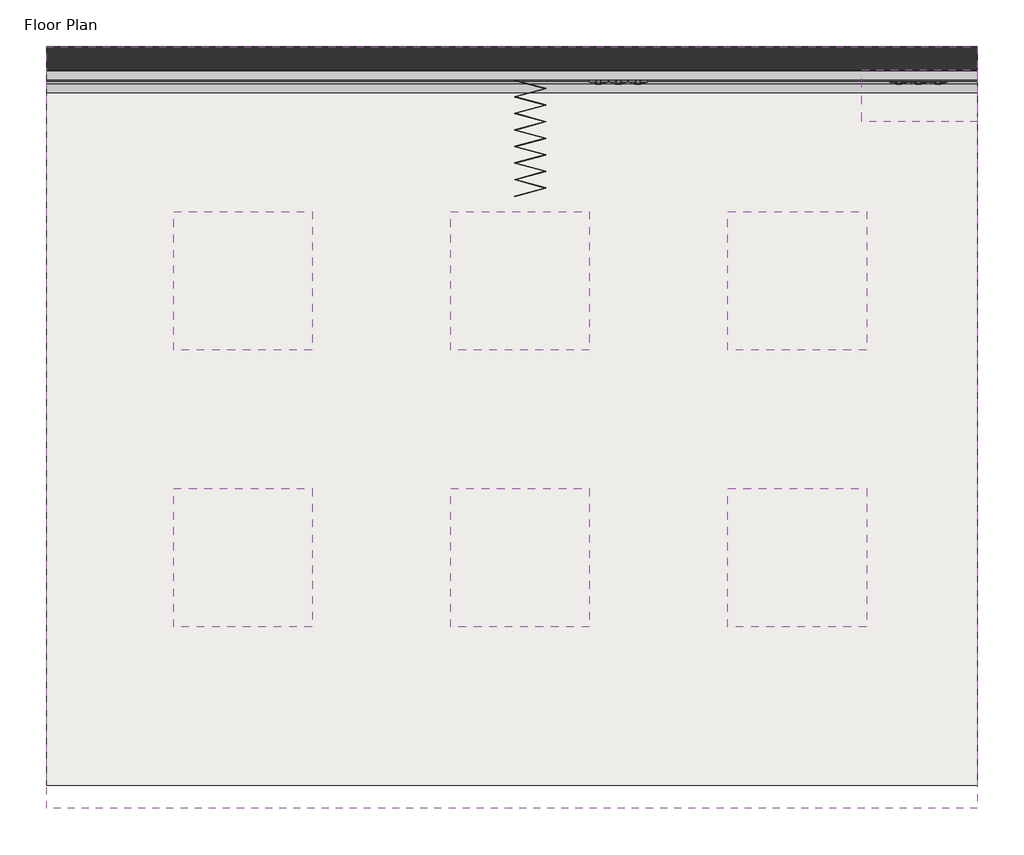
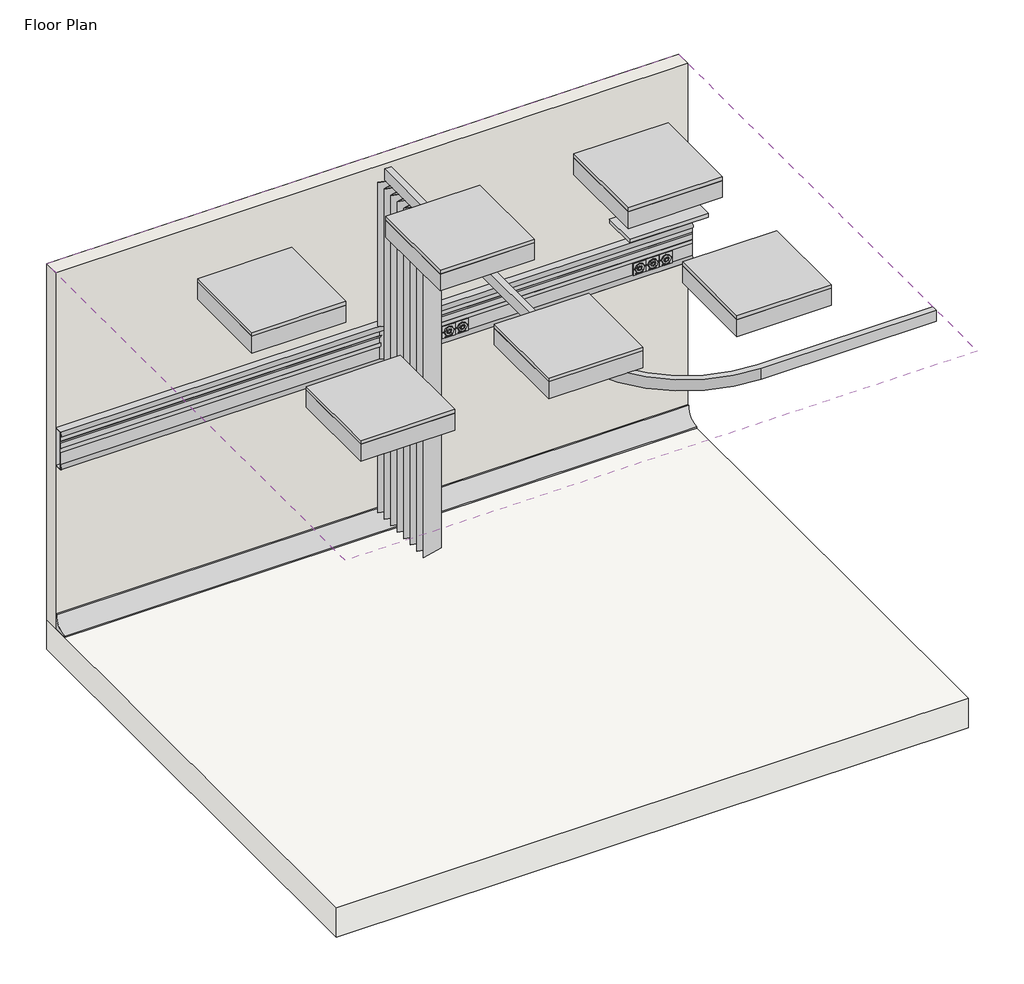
# One storey, incomplete: 9 proxies, 6 light fixtures, 1 covering, 1 furniture element, 1 slab, 1 wall.
"""IFC4 building model written with IfcOpenShell, lengths in millimetres."""

import ifcopenshell
import ifcopenshell.guid

model = None  # the IFC model being written
_history = None  # IfcOwnerHistory: only IFC2X3 demands one
_inside = {}  # id of a spatial element -> (the spatial element, [elements in it])
_under = {}  # id of a project, library or spatial element -> (it, [spatial elements below it])
_declared = {}  # id of a project -> (the project, [libraries it declares])
_typed = {}  # id of a type object -> (the type object, [elements of that type])
_made_of = {}  # id of a material, layer set ... -> (it, [elements and type objects made of it])


def new_model(schema):
    """Start an empty IFC model of exactly this schema.

    Asked for "IFC4X3", IfcOpenShell would pick the latest addendum, in which some entities
    have other attributes; the version numbers below select the first issue.
    IFC2X3 requires an IfcOwnerHistory on every rooted entity: one is made here for all.
    """
    global model, _history
    if schema == "IFC4X3":
        model = ifcopenshell.file(schema_version=(4, 3, 0, 0))
    else:
        model = ifcopenshell.file(schema=schema)
    _inside.clear()
    _under.clear()
    _declared.clear()
    _typed.clear()
    _made_of.clear()
    _history = None
    if model.schema == "IFC2X3":
        org = make("IfcOrganization", Name="unknown")
        user = make(
            "IfcPersonAndOrganization",
            ThePerson=make("IfcPerson", FamilyName="unknown"),
            TheOrganization=org,
        )
        app = make(
            "IfcApplication",
            ApplicationDeveloper=org,
            Version="unknown",
            ApplicationFullName="unknown",
            ApplicationIdentifier="unknown",
        )
        _history = make(
            "IfcOwnerHistory",
            OwningUser=user,
            OwningApplication=app,
            ChangeAction="ADDED",
            CreationDate=0,
        )
    return model


def make(cls, **values):
    """One entity of the class cls with the attributes given. An attribute that is None is left unset."""
    return model.create_entity(
        cls, **{name: value for name, value in values.items() if value is not None}
    )


def rooted(cls, **values):
    """An entity with a GlobalId (a new one), such as an element, a storey or a relation."""
    return make(cls, GlobalId=ifcopenshell.guid.new(), OwnerHistory=_history, **values)


def si_unit(unit_type, name, prefix=None):
    """IfcSIUnit, for example si_unit("LENGTHUNIT", "METRE", prefix="MILLI")."""
    return make("IfcSIUnit", UnitType=unit_type, Prefix=prefix, Name=name)


def assignment(units):
    """IfcUnitAssignment: the units of a project."""
    return None if units is None else make("IfcUnitAssignment", Units=units)


def point(xyz):
    """IfcCartesianPoint."""
    return None if xyz is None else make("IfcCartesianPoint", Coordinates=xyz)


def direction(xyz):
    """IfcDirection."""
    return None if xyz is None else make("IfcDirection", DirectionRatios=xyz)


def frame(location, z_axis=None, x_axis=None):
    """IfcAxis2Placement3D, a coordinate frame: its origin and axes. An axis left out is left unset."""
    return make(
        "IfcAxis2Placement3D",
        Location=point(location),
        Axis=direction(z_axis),
        RefDirection=direction(x_axis),
    )


def frame_2d(location, x_axis=None):
    """IfcAxis2Placement2D, a coordinate frame in the plane: its origin and x axis."""
    return make(
        "IfcAxis2Placement2D", Location=point(location), RefDirection=direction(x_axis)
    )


def origin():
    """The frame at (0, 0, 0) with its axes left unset."""
    return frame((0.0, 0.0, 0.0))


def place(relative_to, where):
    """IfcLocalPlacement: puts the frame where relative to a parent placement (None: the world)."""
    return make(
        "IfcLocalPlacement", PlacementRelTo=relative_to, RelativePlacement=where
    )


def context(
    kind, dimensions, precision=None, world=None, true_north=None, identifier=None
):
    """IfcGeometricRepresentationContext, for example the 3D "Model" context."""
    return make(
        "IfcGeometricRepresentationContext",
        ContextIdentifier=identifier,
        ContextType=kind,
        CoordinateSpaceDimension=dimensions,
        Precision=precision,
        WorldCoordinateSystem=world,
        TrueNorth=true_north,
    )


def project(units=None, contexts=None):
    """IfcProject with its units and contexts."""
    return rooted(
        "IfcProject",
        Name="project",
        RepresentationContexts=contexts,
        UnitsInContext=assignment(units),
    )


def spatial(cls, under=None, at=None, **own):
    """A site, building, storey or space (cls), placed at a placement, below another one or the project."""
    s = rooted(cls, ObjectPlacement=at, **own)
    if under is not None:
        _under.setdefault(under.id(), (under, []))[1].append(s)
    return s


def polyline(points):
    """IfcPolyline through the points."""
    return make("IfcPolyline", Points=[point(p) for p in points])


def circle_curve(where, radius):
    """IfcCircle in the frame where."""
    return make("IfcCircle", Position=where, Radius=radius)


def trimmed(basis, trim1, trim2, sense, master):
    """IfcTrimmedCurve: the piece of a basis curve between two trims."""
    return make(
        "IfcTrimmedCurve",
        BasisCurve=basis,
        Trim1=trim1,
        Trim2=trim2,
        SenseAgreement=sense,
        MasterRepresentation=master,
    )


def segment(curve, same_sense, transition):
    """IfcCompositeCurveSegment."""
    return make(
        "IfcCompositeCurveSegment",
        Transition=transition,
        SameSense=same_sense,
        ParentCurve=curve,
    )


def composite_curve(segments, self_intersect=None):
    """IfcCompositeCurve: segments joined end to end."""
    return make("IfcCompositeCurve", Segments=segments, SelfIntersect=self_intersect)


def outline(outer, holes=None, kind="AREA"):
    """IfcArbitraryClosedProfileDef: a profile drawn as a closed curve; with holes, ...WithVoids."""
    if holes is None:
        return make("IfcArbitraryClosedProfileDef", ProfileType=kind, OuterCurve=outer)
    return make(
        "IfcArbitraryProfileDefWithVoids",
        ProfileType=kind,
        OuterCurve=outer,
        InnerCurves=holes,
    )


def extrude(swept, where, along, depth):
    """IfcExtrudedAreaSolid: the profile swept, set in the frame where, extruded along a direction by depth."""
    return make(
        "IfcExtrudedAreaSolid",
        SweptArea=swept,
        Position=where,
        ExtrudedDirection=direction(along),
        Depth=depth,
    )


def faces_of(points, faces, orient=None, outer=None):
    """IfcFace entities. A face is a list of loops; a loop is a list of indices into points, from 0.

    orient and outer hold one flag for each loop. By default every Orientation is true, the
    first loop of a face is its IfcFaceOuterBound and the others are IfcFaceBound.
    """
    made = []
    for i, loops in enumerate(faces):
        bounds = []
        for j, loop in enumerate(loops):
            is_outer = j == 0 if outer is None else outer[i][j]
            bounds.append(
                make(
                    "IfcFaceOuterBound" if is_outer else "IfcFaceBound",
                    Bound=make("IfcPolyLoop", Polygon=[points[k] for k in loop]),
                    Orientation=True if orient is None else orient[i][j],
                )
            )
        made.append(make("IfcFace", Bounds=bounds))
    return made


def faceted_brep(points, faces, orient=None, outer=None, voids=None):
    """IfcFacetedBrep: a solid bounded by flat faces; with voids (closed shells), ...WithVoids."""
    shared = [point(p) for p in points]
    hull = make("IfcClosedShell", CfsFaces=faces_of(shared, faces, orient, outer))
    if voids is None:
        return make("IfcFacetedBrep", Outer=hull)
    return make(
        "IfcFacetedBrepWithVoids",
        Outer=hull,
        Voids=[
            make(cls, CfsFaces=faces_of(shared, fs, o, b)) for cls, fs, o, b in voids
        ],
    )


def shape(context_of_items, identifier, shape_type, items):
    """IfcShapeRepresentation: the items that make up one representation, for example the "Body"."""
    return make(
        "IfcShapeRepresentation",
        ContextOfItems=context_of_items,
        RepresentationIdentifier=identifier,
        RepresentationType=shape_type,
        Items=items,
    )


def source(mapping_origin, context_of_items, identifier, shape_type, items):
    """IfcRepresentationMap: a shape defined once, which mapped items show again and again."""
    return make(
        "IfcRepresentationMap",
        MappingOrigin=mapping_origin,
        MappedRepresentation=shape(context_of_items, identifier, shape_type, items),
    )


def transform(
    local_origin,
    x_axis=None,
    y_axis=None,
    z_axis=None,
    scale=None,
    scale2=None,
    scale3=None,
    uniform=True,
):
    """IfcCartesianTransformationOperator3D, or its non-uniform kind. x_axis, y_axis, z_axis: its Axis1, 2, 3."""
    if uniform:
        return make(
            "IfcCartesianTransformationOperator3D",
            Axis1=direction(x_axis),
            Axis2=direction(y_axis),
            LocalOrigin=point(local_origin),
            Scale=scale,
            Axis3=direction(z_axis),
        )
    return make(
        "IfcCartesianTransformationOperator3DnonUniform",
        Axis1=direction(x_axis),
        Axis2=direction(y_axis),
        LocalOrigin=point(local_origin),
        Scale=scale,
        Axis3=direction(z_axis),
        Scale2=scale2,
        Scale3=scale3,
    )


def mapped(mapping_source, mapping_target):
    """IfcMappedItem: shows the shape of a source again, moved by a transform."""
    return make(
        "IfcMappedItem", MappingSource=mapping_source, MappingTarget=mapping_target
    )


def made_of(thing, what):
    """Note that an element or type object is made of a material, layer set ...; save() writes the relation."""
    if what is not None:
        _made_of.setdefault(what.id(), (what, []))[1].append(thing)
    return thing


def element(
    cls,
    number,
    at=None,
    inside=None,
    cuts=None,
    type_object=None,
    material=None,
    context=None,
    identifier="Body",
    shape_type=None,
    held_by="IfcProductDefinitionShape",
    body=None,
    shapes=None,
    **own,
):
    """One element of the class cls, such as IfcWall. Its Tag is "e" and its number.

    at: its placement. inside: the storey or other place that contains it. cuts: it is an
    opening in that element (IfcRelVoidsElement). A single representation is given by context,
    identifier, shape_type and body (its items); several are given by shapes. held_by: the class
    of the entity that holds the representations. save() writes the other relations.
    """
    e = rooted(cls, Tag="e%d" % number, ObjectPlacement=at, **own)
    if body is not None:
        shapes = [shape(context, identifier, shape_type, body)]
    if shapes is not None:
        e.Representation = make(held_by, Representations=shapes)
    if inside is not None:
        _inside.setdefault(inside.id(), (inside, []))[1].append(e)
    if cuts is not None:
        rooted(
            "IfcRelVoidsElement", RelatingBuildingElement=cuts, RelatedOpeningElement=e
        )
    if type_object is not None:
        _typed.setdefault(type_object.id(), (type_object, []))[1].append(e)
    return made_of(e, material)


def aggregate(whole, parts):
    """IfcRelAggregates: a whole, such as a stair, and the parts it consists of."""
    return rooted("IfcRelAggregates", RelatingObject=whole, RelatedObjects=parts)


def save(model, path):
    """Write the relations noted so far, then the file.

    IfcRelAggregates (storeys below a building ...), IfcRelContainedInSpatialStructure (elements
    in a storey), IfcRelDefinesByType, IfcRelAssociatesMaterial and IfcRelDeclares: one each for
    every whole, place, type object, material and project.
    """
    for whole, parts in _under.values():
        aggregate(whole, parts)
    for where, things in _inside.values():
        rooted(
            "IfcRelContainedInSpatialStructure",
            RelatedElements=things,
            RelatingStructure=where,
        )
    for kind, things in _typed.values():
        rooted("IfcRelDefinesByType", RelatedObjects=things, RelatingType=kind)
    for what, things in _made_of.values():
        rooted("IfcRelAssociatesMaterial", RelatedObjects=things, RelatingMaterial=what)
    for by, libraries in _declared.values():
        rooted("IfcRelDeclares", RelatingContext=by, RelatedDefinitions=libraries)
    model.write(path)


def generic_models_0edea333(model_context):
    return source(origin(), model_context, "Body", "SweptSolid", [
        extrude(outline(polyline([(4029.4521507, 2.0), (4029.4521507, 0.0), (0.0, 0.0), (0.0, 2.0), (4029.4521507, 2.0)])), frame((0.0, 0.0, 182.5), z_axis=(0.0, 0.0, 1.0), x_axis=(1.0, 0.0, 0.0)), (0.0, 0.0, 1.0), 10.0),
        extrude(outline(polyline([(4029.4521507, 2.0), (4029.4521507, 0.0), (0.0, 0.0), (0.0, 2.0), (4029.4521507, 2.0)])), frame((0.0, 0.0, 117.5483443), z_axis=(0.0, 0.0, 1.0), x_axis=(1.0, 0.0, 0.0)), (0.0, 0.0, 1.0), 25.0),
        extrude(outline(composite_curve([segment(polyline([(0.0, 220.0), (0.0, 255.0)]), True, "CONTINUOUS"), segment(trimmed(circle_curve(frame_2d((-9.7819278, 237.5)), 20.0483443), [point((0.0, 255.0))], [point((0.0, 220.0))], False, "CARTESIAN"), True, "CONTINUOUS")], self_intersect=False)), frame((0.0, 0.0, 0.0), z_axis=(1.0, 0.0, 0.0), x_axis=(0.0, 1.0, 0.0)), (0.0, 0.0, 1.0), 4029.4521507),
        extrude(outline(composite_curve([segment(polyline([(0.0, 0.0), (0.0, 35.0)]), True, "CONTINUOUS"), segment(trimmed(circle_curve(frame_2d((-9.7819278, 17.5)), 20.0483443), [point((0.0, 35.0))], [point((0.0, 0.0))], False, "CARTESIAN"), True, "CONTINUOUS")], self_intersect=False)), frame((0.0, 0.0, 0.0), z_axis=(1.0, 0.0, 0.0), x_axis=(0.0, 1.0, 0.0)), (0.0, 0.0, 1.0), 4029.4521507),
        extrude(outline(polyline([(0.0, 0.0), (-50.0, 0.0), (-50.0, 255.0), (0.0, 255.0), (0.0, 0.0)]), holes=[polyline([(-45.0, 250.0), (-45.0, 5.0), (-5.0, 5.0), (-5.0, 250.0), (-45.0, 250.0)])]), frame((0.0, 0.0, 0.0), z_axis=(1.0, 0.0, 0.0), x_axis=(0.0, 1.0, 0.0)), (0.0, 0.0, 1.0), 4030.0),
    ])


def type_1_1f014aee(model_context):
    return source(origin(), model_context, "Body", "SweptSolid", [
        extrude(outline(polyline([(375.0, 50.0), (-125.0, 50.0), (-125.0, 275.0), (375.0, 275.0), (375.0, 50.0)])), frame((0.0, 0.0, 1500.0), z_axis=(0.0, 0.0, 1.0), x_axis=(1.0, 0.0, 0.0)), (0.0, 0.0, 1.0), 25.0),
    ])


def type_1_e4ce6e86(model_context):
    return source(origin(), model_context, "Body", "SweptSolid", [
        extrude(outline(polyline([(1136.6511743, 148.6914872), (1144.0357897, 148.6914872), (1144.0357897, 145.8735785), (1143.8185421, 144.4934703), (1143.1505733, 143.6785665), (1142.2058618, 143.3837948), (1141.3431815, 143.6316915), (1140.6896358, 144.38079), (1140.0009339, 143.4712347), (1138.8524964, 143.1530256), (1137.8600084, 143.3702732), (1137.1532776, 143.9084343), (1136.7782776, 144.7116194), (1136.6511743, 145.8952131), (1136.6511743, 148.6914872)]), holes=[polyline([(1141.0357897, 147.7684102), (1141.0357897, 146.0827131), (1141.1151166, 145.0983381), (1143.1127127, 146.2107179), (1143.1127127, 147.7684102), (1141.0357897, 147.7684102)]), polyline([(1137.5742512, 147.7684102), (1137.5742512, 145.8753814), (1140.1127127, 145.9655256), (1140.1127127, 147.7684102), (1137.5742512, 147.7684102)])]), frame((0.0, 105.0, 0.0), z_axis=(0.0, 1.0, 0.0), x_axis=(0.0, 0.0, 1.0)), (0.0, 0.0, 1.0), 1.0),
        extrude(outline(polyline([(140.8453333, 106.0), (141.7684102, 106.0), (141.7684102, 105.0), (140.8453333, 105.0), (140.8453333, 106.0)])), frame((0.0, 0.0, 1136.6511743), z_axis=(0.0, 0.0, 1.0), x_axis=(1.0, 0.0, 0.0)), (0.0, 0.0, 1.0), 7.3846154),
        extrude(outline(polyline([(1136.6511743, 138.9991795), (1144.0357897, 138.9991795), (1144.0357897, 137.4162468), (1138.8308618, 135.9018237), (1137.7437223, 135.5953333), (1138.921006, 135.2654054), (1144.0357897, 133.7798285), (1144.0357897, 132.1914872), (1136.6511743, 132.1914872), (1136.6511743, 133.1145641), (1143.1127127, 133.1145641), (1136.6511743, 134.9697323), (1136.6511743, 136.2191314), (1143.1127127, 138.0761025), (1136.6511743, 138.0761025), (1136.6511743, 138.9991795)])), frame((0.0, 105.0, 0.0), z_axis=(0.0, 1.0, 0.0), x_axis=(0.0, 0.0, 1.0)), (0.0, 0.0, 1.0), 1.0),
        extrude(outline(polyline([(1136.6511743, 130.5761025), (1144.0357897, 130.5761025), (1144.0357897, 129.6530256), (1141.0357897, 129.6530256), (1141.0357897, 125.7299487), (1144.0357897, 125.7299487), (1144.0357897, 124.8068718), (1136.6511743, 124.8068718), (1136.6511743, 125.7299487), (1140.1127127, 125.7299487), (1140.1127127, 129.6530256), (1136.6511743, 129.6530256), (1136.6511743, 130.5761025)])), frame((0.0, 105.0, 0.0), z_axis=(0.0, 1.0, 0.0), x_axis=(0.0, 0.0, 1.0)), (0.0, 0.0, 1.0), 1.0),
        extrude(outline(polyline([(1138.2665589, 119.5099968), (1138.1511743, 118.6049487), (1136.9594675, 119.451403), (1136.5357897, 121.0280256), (1137.2668594, 122.944492), (1139.3176406, 123.6530256), (1141.43603, 122.9372804), (1142.1896358, 121.0803093), (1141.4378329, 119.2765232), (1139.3230493, 118.5761025), (1139.0742512, 122.7299487), (1137.8753329, 122.1989992), (1137.4588666, 121.0099968), (1137.6517752, 120.1049487), (1138.2665589, 119.5099968)]), holes=[polyline([(1139.9973281, 122.7299487), (1139.9973281, 119.4991795), (1140.8338666, 119.8687708), (1141.2665589, 121.083915), (1140.9213065, 122.2206338), (1139.9973281, 122.7299487)])]), frame((0.0, 105.0, 0.0), z_axis=(0.0, 1.0, 0.0), x_axis=(0.0, 0.0, 1.0)), (0.0, 0.0, 1.0), 1.0),
        extrude(outline(polyline([(1136.9973281, 114.0761025), (1136.717881, 115.0866194), (1136.5357897, 116.0755016), (1136.9738906, 117.4159463), (1138.093482, 117.8837948), (1139.795405, 115.7978573), (1140.1127127, 114.1968958), (1141.2665589, 115.4661266), (1141.0889748, 116.4000208), (1140.5742512, 117.7684102), (1141.4756935, 117.3690713), (1142.0039387, 116.5649847), (1142.1896358, 115.3471362), (1142.0255733, 114.2284463), (1140.1794195, 113.2684102), (1139.030982, 113.2684102), (1137.4273161, 113.2215352), (1136.6511743, 113.037641), (1136.9973281, 114.0761025)]), holes=[polyline([(1138.7019555, 114.2672083), (1138.9065829, 115.6806698), (1138.7569435, 116.4748405), (1137.4588666, 115.8789872), (1137.6797199, 114.9450929), (1138.7019555, 114.2672083)])]), frame((0.0, 105.0, 0.0), z_axis=(0.0, 1.0, 0.0), x_axis=(0.0, 0.0, 1.0)), (0.0, 0.0, 1.0), 1.0),
        extrude(outline(polyline([(111.0761025, 106.0), (111.9991795, 106.0), (111.9991795, 105.0), (111.0761025, 105.0), (111.0761025, 106.0)])), frame((0.0, 0.0, 1136.6511743), z_axis=(0.0, 0.0, 1.0), x_axis=(1.0, 0.0, 0.0)), (0.0, 0.0, 1.0), 7.3846154),
        extrude(outline(polyline([(1137.7933017, 108.1914872), (1136.624131, 107.6145641), (1136.6890348, 109.0785064), (1138.1385541, 109.5761025), (1141.1511743, 109.5761025), (1142.0742512, 110.2684102), (1143.3921598, 109.5761025), (1143.9348281, 108.6530256), (1142.0742512, 108.6530256), (1142.0742512, 107.7299487), (1141.1511743, 107.7299487), (1141.1511743, 108.6530256), (1137.7933017, 108.1914872)])), frame((0.0, 105.0, 0.0), z_axis=(0.0, 1.0, 0.0), x_axis=(0.0, 0.0, 1.0)), (0.0, 0.0, 1.0), 1.0),
        extrude(outline(polyline([(1136.6511743, 106.8068718), (1144.0357897, 106.8068718), (1144.0357897, 105.8837948), (1141.3206454, 105.8837948), (1142.1896358, 104.2774247), (1141.9525565, 103.240766), (1141.2972079, 102.6115593), (1140.0838666, 102.4222564), (1136.6511743, 102.4222564), (1136.6511743, 103.3453333), (1139.9883137, 103.3453333), (1140.9618714, 103.6392035), (1141.2665589, 104.4721362), (1141.06103, 105.2284463), (1139.5321839, 105.8837948), (1136.6511743, 105.8837948), (1136.6511743, 106.8068718)])), frame((0.0, 105.0, 0.0), z_axis=(0.0, 1.0, 0.0), x_axis=(0.0, 0.0, 1.0)), (0.0, 0.0, 1.0), 1.0),
        extrude(outline(composite_curve([segment(trimmed(circle_curve(frame_2d((1175.0229233, 125.0)), 29.0), [point((1196.3519765, 144.6487021))], [point((1155.3742213, 103.6709469))], False, "CARTESIAN"), True, "CONTINUOUS"), segment(polyline([(1155.3742213, 103.6709469), (1164.2261274, 112.522853)]), True, "CONTINUOUS"), segment(trimmed(circle_curve(frame_2d((1175.0229233, 125.0)), 16.5), [point((1164.2261274, 112.522853))], [point((1187.5000703, 135.7967959))], True, "CARTESIAN"), True, "CONTINUOUS"), segment(polyline([(1187.5000703, 135.7967959), (1196.3519765, 144.6487021)]), True, "CONTINUOUS")], self_intersect=False)), frame((0.0, 110.0, 0.0), z_axis=(0.0, 1.0, 0.0), x_axis=(0.0, 0.0, 1.0)), (0.0, 0.0, 1.0), 1.0),
        extrude(outline(composite_curve([segment(trimmed(circle_curve(frame_2d((1175.0229233, 125.0625)), 12.5), [point((1175.0229233, 137.5625))], [point((1175.0229233, 112.5625))], False, "CARTESIAN"), True, "CONTINUOUS"), segment(trimmed(circle_curve(frame_2d((1175.0229233, 125.0625)), 12.5), [point((1175.0229233, 112.5625))], [point((1175.0229233, 137.5625))], False, "CARTESIAN"), True, "CONTINUOUS")], self_intersect=False), holes=[composite_curve([segment(trimmed(circle_curve(frame_2d((1175.0229233, 125.0625)), 7.5), [point((1175.0229233, 132.5625))], [point((1175.0229233, 117.5625))], True, "CARTESIAN"), True, "CONTINUOUS"), segment(trimmed(circle_curve(frame_2d((1175.0229233, 125.0625)), 7.5), [point((1175.0229233, 117.5625))], [point((1175.0229233, 132.5625))], True, "CARTESIAN"), True, "CONTINUOUS")], self_intersect=False)]), frame((0.0, 95.0, 0.0), z_axis=(0.0, 1.0, 0.0), x_axis=(0.0, 0.0, 1.0)), (0.0, 0.0, 1.0), 17.5),
        extrude(outline(composite_curve([segment(trimmed(circle_curve(frame_2d((1175.0229233, 125.0)), 29.0), [point((1175.0229233, 154.0))], [point((1175.0229233, 96.0))], False, "CARTESIAN"), True, "CONTINUOUS"), segment(trimmed(circle_curve(frame_2d((1175.0229233, 125.0)), 29.0), [point((1175.0229233, 96.0))], [point((1175.0229233, 154.0))], False, "CARTESIAN"), True, "CONTINUOUS")], self_intersect=False), holes=[composite_curve([segment(trimmed(circle_curve(frame_2d((1175.0229233, 125.0)), 16.5), [point((1175.0229233, 141.5))], [point((1175.0229233, 108.5))], True, "CARTESIAN"), True, "CONTINUOUS"), segment(trimmed(circle_curve(frame_2d((1175.0229233, 125.0)), 16.5), [point((1175.0229233, 108.5))], [point((1175.0229233, 141.5))], True, "CARTESIAN"), True, "CONTINUOUS")], self_intersect=False)]), frame((0.0, 95.0, 0.0), z_axis=(0.0, 1.0, 0.0), x_axis=(0.0, 0.0, 1.0)), (0.0, 0.0, 1.0), 15.0),
        extrude(outline(polyline([(1215.0229233, 85.0), (1135.0229233, 85.0), (1135.0229233, 165.0), (1215.0229233, 165.0), (1215.0229233, 85.0)]), holes=[composite_curve([segment(trimmed(circle_curve(frame_2d((1175.0229233, 125.0)), 30.0), [point((1175.0229233, 155.0))], [point((1175.0229233, 95.0))], True, "CARTESIAN"), True, "CONTINUOUS"), segment(trimmed(circle_curve(frame_2d((1175.0229233, 125.0)), 30.0), [point((1175.0229233, 95.0))], [point((1175.0229233, 155.0))], True, "CARTESIAN"), True, "CONTINUOUS")], self_intersect=False), composite_curve([segment(trimmed(circle_curve(frame_2d((1175.0229233, 90.0)), 2.5), [point((1175.0229233, 92.5))], [point((1175.0229233, 87.5))], True, "CARTESIAN"), True, "CONTINUOUS"), segment(trimmed(circle_curve(frame_2d((1175.0229233, 90.0)), 2.5), [point((1175.0229233, 87.5))], [point((1175.0229233, 92.5))], True, "CARTESIAN"), True, "CONTINUOUS")], self_intersect=False), composite_curve([segment(trimmed(circle_curve(frame_2d((1175.0229233, 160.0)), 2.5), [point((1175.0229233, 157.5))], [point((1175.0229233, 162.5))], True, "CARTESIAN"), True, "CONTINUOUS"), segment(trimmed(circle_curve(frame_2d((1175.0229233, 160.0)), 2.5), [point((1175.0229233, 162.5))], [point((1175.0229233, 157.5))], True, "CARTESIAN"), True, "CONTINUOUS")], self_intersect=False)]), frame((0.0, 95.0, 0.0), z_axis=(0.0, 1.0, 0.0), x_axis=(0.0, 0.0, 1.0)), (0.0, 0.0, 1.0), 10.0),
    ])


def furniture_3dd21fbf(model_context):
    return source(origin(), model_context, "Body", "SweptSolid", [
        extrude(outline(composite_curve([segment(trimmed(circle_curve(frame_2d((1860.0, 840.0)), 800.0), [point((1860.0, 40.0))], [point((2660.0, 840.0))], True, "CARTESIAN"), True, "CONTINUOUS"), segment(polyline([(2660.0, 840.0), (2660.0, 1957.2426086), (2700.0, 1957.2426086), (2700.0, 840.0)]), True, "CONTINUOUS"), segment(trimmed(circle_curve(frame_2d((1860.0, 840.0)), 840.0), [point((2700.0, 840.0))], [point((1860.0, 0.0))], False, "CARTESIAN"), True, "CONTINUOUS"), segment(polyline([(1860.0, 0.0), (0.0, 0.0), (0.0, 40.0), (1860.0, 40.0)]), True, "CONTINUOUS")], self_intersect=False)), frame((0.0, 0.0, 2325.0), z_axis=(0.0, 0.0, 1.0), x_axis=(1.0, 0.0, 0.0)), (0.0, 0.0, 1.0), 75.0),
        extrude(outline(polyline([(35.8630189, 88.8426086), (37.9335712, 88.8426086), (72.761314, -41.1362967), (107.5890567, 88.8426086), (109.659609, 88.8426086), (144.4873517, -41.1362967), (179.3150944, 88.8426086), (181.3856468, 88.8426086), (216.2133895, -41.1362967), (251.0411322, 88.8426086), (253.1116846, 88.8426086), (287.9394273, -41.1362967), (322.76717, 88.8426086), (324.8377223, 88.8426086), (359.665465, -41.1362967), (394.4932078, 88.8426086), (396.5637601, 88.8426086), (431.3915028, -41.1362967), (466.2192455, 88.8426086), (468.2897979, 88.8426086), (504.1528168, -45.0), (502.2209651, -45.5176381), (467.2545217, 84.9789053), (432.426779, -45.0), (430.3562266, -45.0), (395.5284839, 84.9789053), (360.7007412, -45.0), (358.6301889, -45.0), (323.8024462, 84.9789053), (288.9747035, -45.0), (286.9041511, -45.0), (252.0764084, 84.9789053), (217.2486657, -45.0), (215.1781133, -45.0), (180.3503706, 84.9789053), (145.5226279, -45.0), (143.4520755, -45.0), (108.6243328, 84.9789053), (73.7965901, -45.0), (71.7260378, -45.0), (36.8982951, 84.9789053), (1.9318517, -45.5176381), (0.0, -45.0), (35.8630189, 88.8426086)])), frame((0.0, 0.0, 100.0), z_axis=(0.0, 0.0, 1.0), x_axis=(1.0, 0.0, 0.0)), (0.0, 0.0, 1.0), 2225.0),
    ])


def light_fixture_600x600mm_2_lamps_e2767e77(model_context):
    return source(origin(), model_context, "Body", "SweptSolid", [
        extrude(outline(polyline([(251.0964984, 219.9340679), (251.0964984, -329.2659321), (-298.1035016, -329.2659321), (-298.1035016, 219.9340679), (251.0964984, 219.9340679)])), frame((0.0, 0.0, 2438.4), z_axis=(0.0, 0.0, 1.0), x_axis=(1.0, 0.0, 0.0)), (0.0, 0.0, 1.0), 6.35),
        extrude(outline(polyline([(276.4964984, 245.3340679), (276.4964984, -354.6659321), (-323.5035016, -354.6659321), (-323.5035016, 245.3340679), (276.4964984, 245.3340679)]), holes=[polyline([(251.0964984, 219.9340679), (-298.1035016, 219.9340679), (-298.1035016, -329.2659321), (251.0964984, -329.2659321), (251.0964984, 219.9340679)])]), frame((0.0, 0.0, 2438.4), z_axis=(0.0, 0.0, 1.0), x_axis=(1.0, 0.0, 0.0)), (0.0, 0.0, 1.0), 114.3),
        extrude(outline(polyline([(251.0964984, 220.3340679), (251.0964984, -329.2659322), (-298.5035016, -329.2659322), (-298.5035016, 220.3340679), (251.0964984, 220.3340679)])), frame((0.0, 0.0, 2438.4), z_axis=(0.0, 0.0, 1.0), x_axis=(1.0, 0.0, 0.0)), (0.0, 0.0, 1.0), 10.0),
        extrude(outline(polyline([(276.4964984, 245.3340679), (276.4964984, -354.6659321), (-323.5035016, -354.6659321), (-323.5035016, 245.3340679), (276.4964984, 245.3340679)])), frame((0.0, 0.0, 2552.7), z_axis=(0.0, 0.0, 1.0), x_axis=(1.0, 0.0, 0.0)), (0.0, 0.0, 1.0), 25.4),
    ])


model = new_model("IFC4")

# Units and contexts
model_context = context("Model", 3, world=origin())
ifc_project = project(units=[si_unit("LENGTHUNIT", "METRE", prefix="MILLI")], contexts=[model_context])

# Site, building, storey
site = spatial("IfcSite", under=ifc_project)
building = spatial("IfcBuilding", under=site)
storey = spatial("IfcBuildingStorey", under=building, Name="Floor Plan", Elevation=0.0)

# Proxies
placement = place(None, origin())
element("IfcBuildingElementProxy", 1, Name="Wall Sweeps", at=placement, inside=storey, context=model_context, shape_type="SweptSolid", body=[
    extrude(outline(composite_curve([segment(polyline([(3415.0, 0.0), (3315.0, 0.0), (3315.0, 10.0)]), True, "CONTINUOUS"), segment(trimmed(circle_curve(frame_2d((3315.0, 100.0)), 90.0), [point((3315.0, 10.0))], [point((3405.0, 100.0))], True, "CARTESIAN"), True, "CONTINUOUS"), segment(polyline([(3405.0, 100.0), (3415.0, 100.0), (3415.0, 0.0)]), True, "CONTINUOUS")], self_intersect=False)), frame((-195.0, 0.0, 0.0), z_axis=(1.0, 0.0, 0.0), x_axis=(0.0, 1.0, 0.0)), (0.0, 0.0, 1.0), 4030.0),
])
generic_models_shape = generic_models_0edea333(model_context)
element("IfcBuildingElementProxy", 2, Name="BIMHealth-Dado_Double_Trunking-LOD2A-v1 : BIMHealth-Dado_Double_Trunking-LOD2A-v1", ObjectType="BIMHealth-Dado_Double_Trunking-LOD2A-v1 : BIMHealth-Dado_Double_Trunking-LOD2A-v1", at=placement, inside=storey, context=model_context, shape_type="MappedRepresentation", body=[
    mapped(generic_models_shape, transform((3835.0, 3365.0, 1100.0), x_axis=(-1.0, 0.0, 0.0), y_axis=(0.0, -1.0, 0.0), z_axis=(0.0, 0.0, 1.0))),
])
type_1_shape = type_1_1f014aee(model_context)
element("IfcBuildingElementProxy", 3, Name="BIMHealth-Suction_Pump_Shelf-LOD2A-v1 : Type 1", ObjectType="BIMHealth-Suction_Pump_Shelf-LOD2A-v1 : Type 1", at=placement, inside=storey, context=model_context, shape_type="MappedRepresentation", body=[
    mapped(type_1_shape, transform((3710.0, 3465.0, 0.0), x_axis=(-1.0, 0.0, 0.0), y_axis=(0.0, -1.0, 0.0), z_axis=(0.0, 0.0, 1.0))),
])
type_1_2_shape = type_1_e4ce6e86(model_context)
element("IfcBuildingElementProxy", 4, Name="BIMHealth-Medical_Gas_Outlets-LOD2A-v1 : Type 1", ObjectType="BIMHealth-Medical_Gas_Outlets-LOD2A-v1 : Type 1", at=placement, inside=storey, context=model_context, shape_type="MappedRepresentation", body=[
    mapped(type_1_2_shape, transform((2320.0, 3465.0, 0.0), x_axis=(-1.0, 0.0, 0.0), y_axis=(0.0, -1.0, 0.0), z_axis=(0.0, 0.0, 1.0))),
])
element("IfcBuildingElementProxy", 5, Name="BIMHealth-Medical_Gas_Outlets-LOD2A-v1 : Type 1", ObjectType="BIMHealth-Medical_Gas_Outlets-LOD2A-v1 : Type 1", at=placement, inside=storey, context=model_context, shape_type="MappedRepresentation", body=[
    mapped(type_1_2_shape, transform((2405.0, 3465.0, 0.0), x_axis=(-1.0, 0.0, 0.0), y_axis=(0.0, -1.0, 0.0), z_axis=(0.0, 0.0, 1.0))),
])
element("IfcBuildingElementProxy", 6, Name="BIMHealth-Medical_Gas_Outlets-LOD2A-v1 : Type 1", ObjectType="BIMHealth-Medical_Gas_Outlets-LOD2A-v1 : Type 1", at=placement, inside=storey, context=model_context, shape_type="MappedRepresentation", body=[
    mapped(type_1_2_shape, transform((2490.0, 3465.0, 0.0), x_axis=(-1.0, 0.0, 0.0), y_axis=(0.0, -1.0, 0.0), z_axis=(0.0, 0.0, 1.0))),
])
element("IfcBuildingElementProxy", 7, Name="BIMHealth-Medical_Gas_Outlets-LOD2A-v1 : Type 1", ObjectType="BIMHealth-Medical_Gas_Outlets-LOD2A-v1 : Type 1", at=placement, inside=storey, context=model_context, shape_type="MappedRepresentation", body=[
    mapped(type_1_2_shape, transform((3620.0, 3465.0, 0.0), x_axis=(-1.0, 0.0, 0.0), y_axis=(0.0, -1.0, 0.0), z_axis=(0.0, 0.0, 1.0))),
])
element("IfcBuildingElementProxy", 8, Name="BIMHealth-Medical_Gas_Outlets-LOD2A-v1 : Type 1", ObjectType="BIMHealth-Medical_Gas_Outlets-LOD2A-v1 : Type 1", at=placement, inside=storey, context=model_context, shape_type="MappedRepresentation", body=[
    mapped(type_1_2_shape, transform((3705.0, 3465.0, 0.0), x_axis=(-1.0, 0.0, 0.0), y_axis=(0.0, -1.0, 0.0), z_axis=(0.0, 0.0, 1.0))),
])
element("IfcBuildingElementProxy", 9, Name="BIMHealth-Medical_Gas_Outlets-LOD2A-v1 : Type 1", ObjectType="BIMHealth-Medical_Gas_Outlets-LOD2A-v1 : Type 1", at=placement, inside=storey, context=model_context, shape_type="MappedRepresentation", body=[
    mapped(type_1_2_shape, transform((3790.0, 3465.0, 0.0), x_axis=(-1.0, 0.0, 0.0), y_axis=(0.0, -1.0, 0.0), z_axis=(0.0, 0.0, 1.0))),
])

# Covering
element("IfcCovering", 10, ObjectType="BIMHealth - Generic Ceiling", at=placement, inside=storey, context=model_context, shape_type="SweptSolid", body=[
    extrude(outline(polyline([(3835.0, 3515.0), (3835.0, 215.0), (-195.0, 215.0), (-195.0, 3515.0), (3835.0, 3515.0)]), holes=[polyline([(955.0, 2800.0), (355.0, 2800.0), (355.0, 2200.0), (955.0, 2200.0), (955.0, 2800.0)]), polyline([(2155.0, 2800.0), (1555.0, 2800.0), (1555.0, 2200.0), (2155.0, 2200.0), (2155.0, 2800.0)]), polyline([(3355.0, 2800.0), (2755.0, 2800.0), (2755.0, 2200.0), (3355.0, 2200.0), (3355.0, 2800.0)]), polyline([(955.0, 1600.0), (355.0, 1600.0), (355.0, 1000.0), (955.0, 1000.0), (955.0, 1600.0)]), polyline([(2155.0, 1600.0), (1555.0, 1600.0), (1555.0, 1000.0), (2155.0, 1000.0), (2155.0, 1600.0)]), polyline([(3355.0, 1600.0), (2755.0, 1600.0), (2755.0, 1000.0), (3355.0, 1000.0), (3355.0, 1600.0)])]), frame((0.0, 0.0, 2400.0), z_axis=(0.0, 0.0, 1.0), x_axis=(1.0, 0.0, 0.0)), (0.0, 0.0, 1.0), 52.0),
])

# Furniture
furniture_shape = furniture_3dd21fbf(model_context)
element("IfcFurniture", 11, ObjectType="BIMHealth-Curtain_Resus-LOD2A-v1 : BIMHealth-Curtain_Resus-LOD2A-v1", at=placement, inside=storey, context=model_context, shape_type="MappedRepresentation", body=[
    mapped(furniture_shape, transform((1877.7573914, 3370.0, 0.0), x_axis=(0.0, -1.0, 0.0), y_axis=(1.0, 0.0, 0.0), z_axis=(0.0, 0.0, 1.0))),
])

# Light fixtures
light_fixture_600x600mm_2_lamps_shape = light_fixture_600x600mm_2_lamps_e2767e77(model_context)
element("IfcLightFixture", 12, ObjectType="BIMHealth-Light_Fitting-LOD2A-v1 : 600x600mm-2_Lamps", at=placement, inside=storey, context=model_context, shape_type="MappedRepresentation", body=[
    mapped(light_fixture_600x600mm_2_lamps_shape, transform((678.5035016, 2554.6659321, -38.4), x_axis=(1.0, 0.0, 0.0), y_axis=(0.0, 1.0, 0.0), z_axis=(0.0, 0.0, 1.0))),
])
element("IfcLightFixture", 13, ObjectType="BIMHealth-Light_Fitting-LOD2A-v1 : 600x600mm-2_Lamps", at=placement, inside=storey, context=model_context, shape_type="MappedRepresentation", body=[
    mapped(light_fixture_600x600mm_2_lamps_shape, transform((1878.5035016, 2554.6659321, -38.4), x_axis=(1.0, 0.0, 0.0), y_axis=(0.0, 1.0, 0.0), z_axis=(0.0, 0.0, 1.0))),
])
element("IfcLightFixture", 14, ObjectType="BIMHealth-Light_Fitting-LOD2A-v1 : 600x600mm-2_Lamps", at=placement, inside=storey, context=model_context, shape_type="MappedRepresentation", body=[
    mapped(light_fixture_600x600mm_2_lamps_shape, transform((3078.5035016, 2554.6659321, -38.4), x_axis=(1.0, 0.0, 0.0), y_axis=(0.0, 1.0, 0.0), z_axis=(0.0, 0.0, 1.0))),
])
element("IfcLightFixture", 15, ObjectType="BIMHealth-Light_Fitting-LOD2A-v1 : 600x600mm-2_Lamps", at=placement, inside=storey, context=model_context, shape_type="MappedRepresentation", body=[
    mapped(light_fixture_600x600mm_2_lamps_shape, transform((678.5035016, 1354.6659321, -38.4), x_axis=(1.0, 0.0, 0.0), y_axis=(0.0, 1.0, 0.0), z_axis=(0.0, 0.0, 1.0))),
])
element("IfcLightFixture", 16, ObjectType="BIMHealth-Light_Fitting-LOD2A-v1 : 600x600mm-2_Lamps", at=placement, inside=storey, context=model_context, shape_type="MappedRepresentation", body=[
    mapped(light_fixture_600x600mm_2_lamps_shape, transform((1878.5035016, 1354.6659321, -38.4), x_axis=(1.0, 0.0, 0.0), y_axis=(0.0, 1.0, 0.0), z_axis=(0.0, 0.0, 1.0))),
])
element("IfcLightFixture", 17, ObjectType="BIMHealth-Light_Fitting-LOD2A-v1 : 600x600mm-2_Lamps", at=placement, inside=storey, context=model_context, shape_type="MappedRepresentation", body=[
    mapped(light_fixture_600x600mm_2_lamps_shape, transform((3078.5035016, 1354.6659321, -38.4), x_axis=(1.0, 0.0, 0.0), y_axis=(0.0, 1.0, 0.0), z_axis=(0.0, 0.0, 1.0))),
])

# Slab
element("IfcSlab", 18, ObjectType="BIMHealth - Generic Floor", at=placement, inside=storey, context=model_context, shape_type="SweptSolid", body=[
    extrude(outline(polyline([(3835.0, 3515.0), (3835.0, 315.0), (-195.0, 315.0), (-195.0, 3515.0), (3835.0, 3515.0)])), frame((0.0, 0.0, -200.0), z_axis=(0.0, 0.0, 1.0), x_axis=(1.0, 0.0, 0.0)), (0.0, 0.0, 1.0), 200.0),
])

# Wall
element("IfcWall", 19, ObjectType="BIMHealth - Generic Wall", at=placement, inside=storey, context=model_context, shape_type="Brep", body=[
    faceted_brep([(-195.0, 3415.0, 0.0), (3835.0, 3415.0, 0.0), (3835.0, 3415.0, 100.0), (3835.0, 3415.0, 2400.0), (-195.0, 3415.0, 2400.0), (-195.0, 3415.0, 100.0), (-195.0, 3515.0, 0.0), (-195.0, 3515.0, 2400.0), (3835.0, 3515.0, 2400.0), (3835.0, 3515.0, 0.0)], [[[0, 1, 2, 3, 4, 5]], [[6, 7, 8, 9]], [[1, 0, 6, 9]], [[3, 2, 1, 9, 8]], [[4, 3, 8, 7]], [[0, 5, 4, 7, 6]]]),
])

save(model, "model.ifc")
